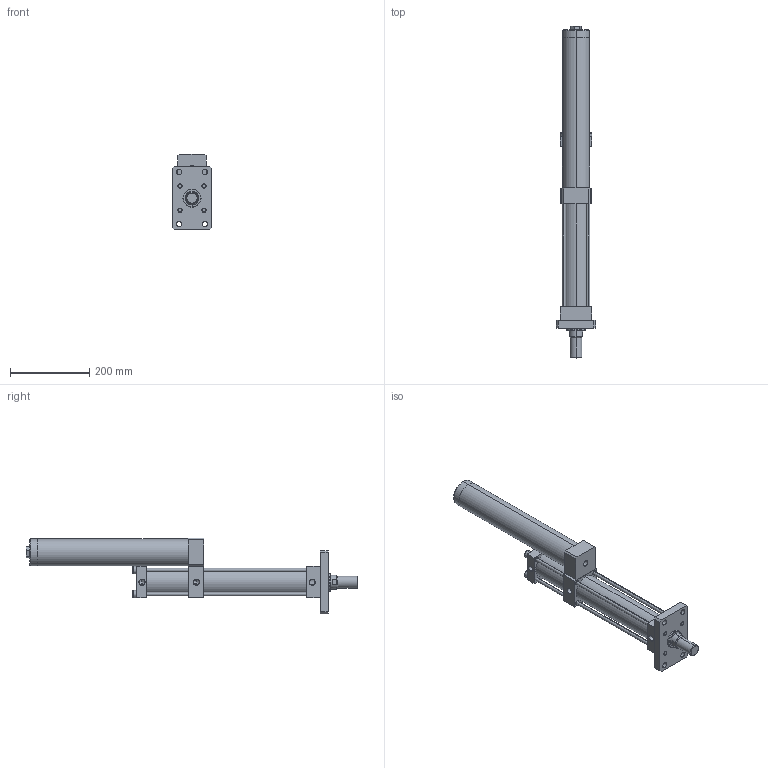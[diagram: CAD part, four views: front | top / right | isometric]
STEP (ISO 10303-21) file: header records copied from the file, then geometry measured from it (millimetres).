
FILE_DESCRIPTION (( 'STEP AP203' ), '1' );
FILE_NAME ('MPT-63-200-5-1T.STEP', '2016-03-17T09:41:19', ( 'WIN' ), ( '' ), 'SwSTEP 2.0', 'SolidWorks 2014', '' );
FILE_SCHEMA (( 'CONFIG_CONTROL_DESIGN' ));
Length unit declared in the file: millimetre
Products named in the file (1): MPT-63-200-5-1T
Bounding box: 100 x 840 x 191 mm (x, y, z)
Volume: 2474648.6 mm3; surface area: 501239.7 mm2
Topology: 15 solids, 15 shells, 270 faces, 609 edges, 378 vertices
Faces by surface type: plane 150, cylinder 84, cone 24, torus 12
Entity records: 7693 total; most frequent: DIRECTION 1396, CARTESIAN_POINT 1351, ORIENTED_EDGE 1206, EDGE_CURVE 603, AXIS2_PLACEMENT_3D 533, VERTEX_POINT 378, VECTOR 330, LINE 330
